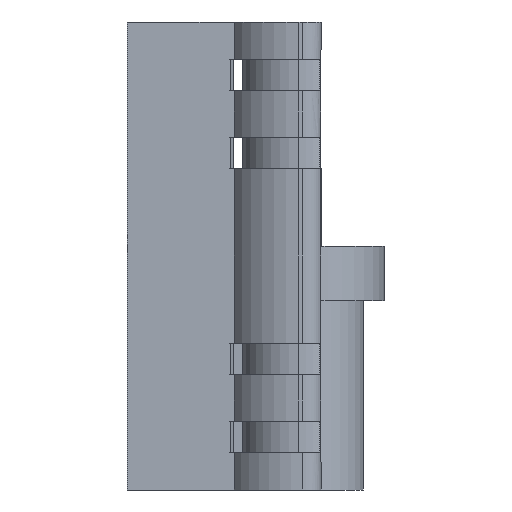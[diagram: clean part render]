
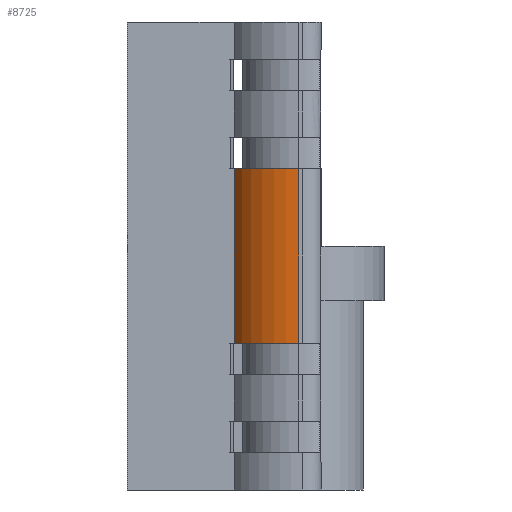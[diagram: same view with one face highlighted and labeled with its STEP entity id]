
A CAD part, left-side view. The second image highlights one B-rep face of the part: STEP entity #8725.
In plain terms, the highlighted cylindrical face has radius 12.383 mm (diameter 24.765 mm), a partial arc.
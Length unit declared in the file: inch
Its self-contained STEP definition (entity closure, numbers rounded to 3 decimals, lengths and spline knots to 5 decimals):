
#245 = DIRECTION ( 'NONE',  ( 0., 0., 1. ) ) ;
#885 = CARTESIAN_POINT ( 'NONE',  ( -0.25842, 0.41337, 0.94 ) ) ;
#1197 = DIRECTION ( 'NONE',  ( 1., 0., 0. ) ) ;
#1489 = EDGE_CURVE ( 'NONE', #11297, #5851, #11079, .T. ) ;
#1631 = VECTOR ( 'NONE', #8947, 39.37008 ) ;
#1665 = CIRCLE ( 'NONE', #6481, 0.4875 ) ;
#1701 = CARTESIAN_POINT ( 'NONE',  ( -0.25842, 0.41337, 3. ) ) ;
#2261 = VECTOR ( 'NONE', #9087, 39.37008 ) ;
#2843 = CARTESIAN_POINT ( 'NONE',  ( 0., 0., 2.06 ) ) ;
#2884 = DIRECTION ( 'NONE',  ( -1., 0., 0. ) ) ;
#3067 = EDGE_CURVE ( 'NONE', #4667, #3934, #5079, .T. ) ;
#3445 = CYLINDRICAL_SURFACE ( 'NONE', #13394, 0.4875 ) ;
#3778 = FACE_OUTER_BOUND ( 'NONE', #7398, .T. ) ;
#3934 = VERTEX_POINT ( 'NONE', #885 ) ;
#4417 = EDGE_CURVE ( 'NONE', #4667, #11297, #1665, .T. ) ;
#4667 = VERTEX_POINT ( 'NONE', #9146 ) ;
#5079 = LINE ( 'NONE', #1701, #2261 ) ;
#5272 = ORIENTED_EDGE ( 'NONE', *, *, #6464, .T. ) ;
#5762 = ORIENTED_EDGE ( 'NONE', *, *, #4417, .F. ) ;
#5851 = VERTEX_POINT ( 'NONE', #13167 ) ;
#6464 = EDGE_CURVE ( 'NONE', #3934, #5851, #6538, .T. ) ;
#6481 = AXIS2_PLACEMENT_3D ( 'NONE', #2843, #10270, #1197 ) ;
#6538 = CIRCLE ( 'NONE', #10067, 0.4875 ) ;
#6573 = CARTESIAN_POINT ( 'NONE',  ( 0., 0., 0.94 ) ) ;
#7398 = EDGE_LOOP ( 'NONE', ( #10385, #5762, #9646, #5272 ) ) ;
#7636 = DIRECTION ( 'NONE',  ( 1., 0., 0. ) ) ;
#8156 = CARTESIAN_POINT ( 'NONE',  ( 0., 0., 3. ) ) ;
#8700 = CARTESIAN_POINT ( 'NONE',  ( -0.4875, 0., 3. ) ) ;
#8725 = ADVANCED_FACE ( 'NONE', ( #3778 ), #3445, .T. ) ;
#8947 = DIRECTION ( 'NONE',  ( 0., 0., -1. ) ) ;
#9087 = DIRECTION ( 'NONE',  ( 0., 0., -1. ) ) ;
#9146 = CARTESIAN_POINT ( 'NONE',  ( -0.25842, 0.41337, 2.06 ) ) ;
#9223 = DIRECTION ( 'NONE',  ( 0., 0., -1. ) ) ;
#9646 = ORIENTED_EDGE ( 'NONE', *, *, #3067, .T. ) ;
#10067 = AXIS2_PLACEMENT_3D ( 'NONE', #6573, #245, #7636 ) ;
#10270 = DIRECTION ( 'NONE',  ( 0., 0., 1. ) ) ;
#10385 = ORIENTED_EDGE ( 'NONE', *, *, #1489, .F. ) ;
#11009 = CARTESIAN_POINT ( 'NONE',  ( -0.4875, 0., 2.06 ) ) ;
#11079 = LINE ( 'NONE', #8700, #1631 ) ;
#11297 = VERTEX_POINT ( 'NONE', #11009 ) ;
#13167 = CARTESIAN_POINT ( 'NONE',  ( -0.4875, 0., 0.94 ) ) ;
#13394 = AXIS2_PLACEMENT_3D ( 'NONE', #8156, #9223, #2884 ) ;
